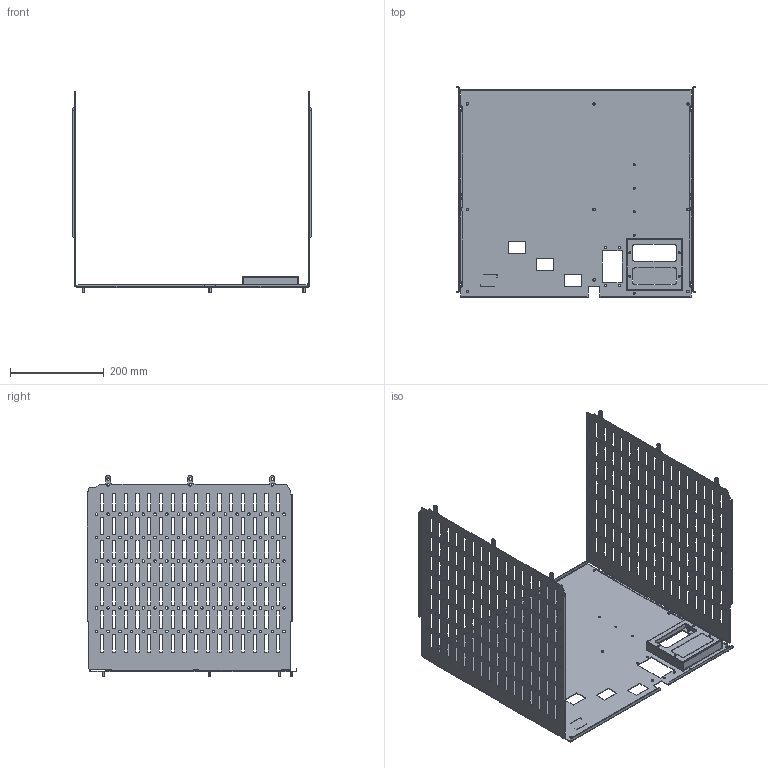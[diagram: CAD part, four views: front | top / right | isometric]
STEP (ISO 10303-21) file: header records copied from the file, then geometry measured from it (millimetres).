
FILE_DESCRIPTION(('CAx-IF Rec.Pracs.---Model Styling and Organization---1.2---2011-12-15','CAx-IF Rec.Pracs.---Geometric and Assembly Validation Properties---4.1---2014-06-16','CAx-IF Rec.Pracs.---PMI Polyline Presentation---2.0---2013-05-24'),'2;1');
FILE_NAME('R5M2W9M1A21.stp','2021-05-05T12:33:55+03:00',(''),(''),'STEP Interface 4.4 by CT CoreTechnologie','3D_Evolution4.4 by CT CoreTechnologie','');
FILE_SCHEMA(('AUTOMOTIVE_DESIGN { 1 0 10303 214 1 1 1 1 }'));
Length unit declared in the file: millimetre
Products named in the file (6): R5M2W9M1A21; RB.1568.00.00.0_-00; M5x8-DIN7500C_stright; RB.1285.00.00.0_-14; RB.1285.00.00.0_-15; RB.1257.00.00.0_-12
Assembly tree (17 placements, depth 2):
  R5M2W9M1A21
    RB.1568.00.00.0_-00
    M5x8-DIN7500C_stright  x13
    RB.1285.00.00.0_-14
    RB.1285.00.00.0_-15
    RB.1257.00.00.0_-12
Bounding box: 510 x 447.5 x 428.6 mm (x, y, z)
Surface area: 1075848.9 mm2 (no closed solid volume)
Topology: 0 solids, 21 shells, 1800 faces, 5285 edges, 3515 vertices
Faces by surface type: plane 1188, cylinder 604, bspline 8
Entity records: 61334 total; most frequent: CARTESIAN_POINT 10776, ORIENTED_EDGE 10426, DIRECTION 9881, EDGE_CURVE 5213, VECTOR 4041, LINE 4041, VERTEX_POINT 3467, AXIS2_PLACEMENT_3D 2920
